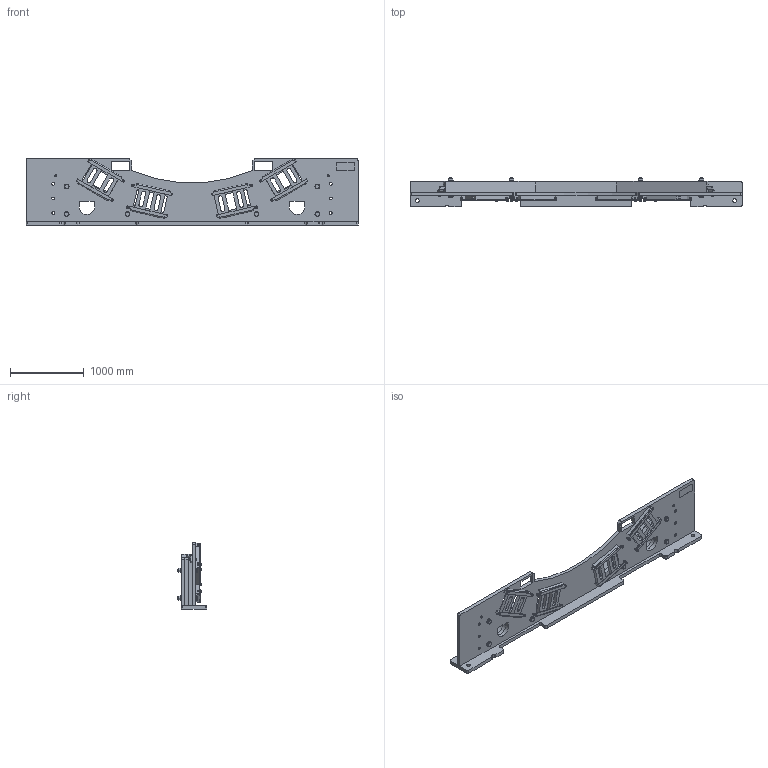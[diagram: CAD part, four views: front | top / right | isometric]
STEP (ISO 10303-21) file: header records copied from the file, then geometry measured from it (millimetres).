
FILE_DESCRIPTION(/* description */ (''),/* implementation_level */ '2;1');
FILE_NAME(/* name */ 'D:\Dropbox (Advantis)\Advantis Team Folder\Projekter\Offshore Energy\10040 - Common Tower Tool\02 - Techincal documentation\02.02 - Drawings CAD\02.02.02 - 2D Hardcopy\2019-10-22 2D PDF DXF\10040-001.stp',/* time_stamp */ '2019-10-22T13:05:23+02:00',/* author */ ('Peter Eltzholtz'),/* organization */ (''),/* preprocessor_version */ 'ST-DEVELOPER v16.1',/* originating_system */ 'Autodesk Inventor 2016',/* authorisation */ '');
FILE_SCHEMA (('AUTOMOTIVE_DESIGN { 1 0 10303 214 3 1 1 }'));
Length unit declared in the file: millimetre
Products named in the file (22): 10040-400; 10040-401; 10040-431; 10040-432; 10040-200; 10040-408; 10040-417; 10040-426; 10040-430; 10040-427; ISO 4014 - M36 x 260 - ISO; ISO 4032 - M36 - ISO; DIN 125-1 - B 37; ISO 4017 - M16 x 40 - ISO; DIN 125-1 - B 17; ISO 10511 - M16; 10040-424; 10040-433; ISO 4014 - M16 x 100 - ISO; ISO 4032 - M16 - ISO; Label_Equipment; 10040-001
Assembly tree (94 placements, depth 3):
  10040-001
    10040-200
      10040-400
      10040-401
      10040-431  x4
      10040-432  x4
    10040-408  x8
    10040-417  x2
    10040-426  x4
    10040-430
    10040-427
    ISO 4014 - M36 x 260 - ISO  x6
    ISO 4032 - M36 - ISO  x6
    DIN 125-1 - B 37  x12
    ISO 4017 - M16 x 40 - ISO  x8
    DIN 125-1 - B 17  x20
    ISO 10511 - M16  x8
    10040-424
    10040-433
    ISO 4014 - M16 x 100 - ISO  x2
    ISO 4032 - M16 - ISO  x2
    Label_Equipment
Bounding box: 4500 x 405 x 900 mm (x, y, z)
Volume: 380020988.5 mm3; surface area: 20511602.1 mm2
Topology: 93 solids, 93 shells, 1388 faces, 3248 edges, 2078 vertices
Faces by surface type: plane 771, cylinder 393, cone 224
Full cylindrical faces by diameter (mm): 13.835 x10, 16 x10, 17 x20, 19 x4, 20 x8, 22.49 x10, 22.5 x8, 30 x20, 31.67 x6, 36 x6, 37 x12, 39 x30, 50 x2, 51.11 x6, 66 x12
Entity records: 14717 total; most frequent: DIRECTION 2576, CARTESIAN_POINT 2566, ORIENTED_EDGE 2200, EDGE_CURVE 1100, AXIS2_PLACEMENT_3D 966, VERTEX_POINT 740, LINE 644, VECTOR 644
